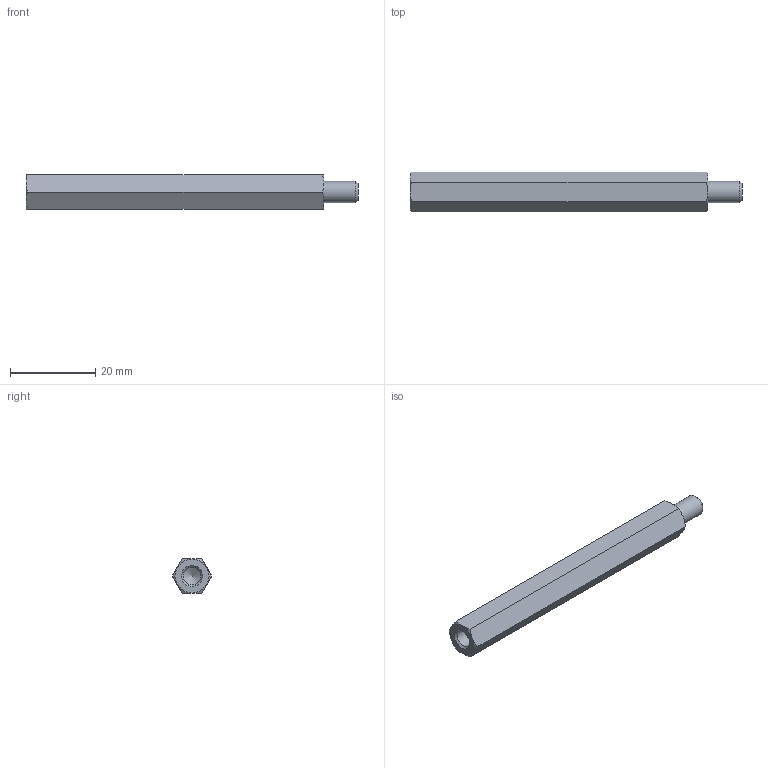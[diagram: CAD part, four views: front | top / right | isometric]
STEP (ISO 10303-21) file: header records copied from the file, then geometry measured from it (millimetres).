
FILE_DESCRIPTION( ( 'STEP AP203' ), '1' );
FILE_NAME( 'C:/Temp/Ganter_Step_05_03_2020/data/3_2/gn6220/gn6220_ni/Stainless Steel-Spacer GN 6220-NI-M5-70-B.stp', '2020-03-13T05:43:14', ( 'License CC BY-ND 4.0' ), ( 'CADENAS' ), ' ', 'PARTsolutions', ' ' );
FILE_SCHEMA( ( 'CONFIG_CONTROL_DESIGN' ) );
Length unit declared in the file: millimetre
Products named in the file (1): _Stainless Steel-Spacer GN 6220-NI-M5-70-B
Bounding box: 78 x 9.24 x 8 mm (x, y, z)
Volume: 3836.6 mm3; surface area: 2350 mm2
Topology: 1 solids, 1 shells, 26 faces, 55 edges, 32 vertices
Faces by surface type: cone 15, plane 9, cylinder 2
Full cylindrical faces by diameter (mm): 4.134 x1, 5 x1
Entity records: 746 total; most frequent: CARTESIAN_POINT 210, DIRECTION 96, ORIENTED_EDGE 96, EDGE_CURVE 48, AXIS2_PLACEMENT_3D 45, EDGE_LOOP 32, VERTEX_POINT 31, FACE_OUTER_BOUND 28
